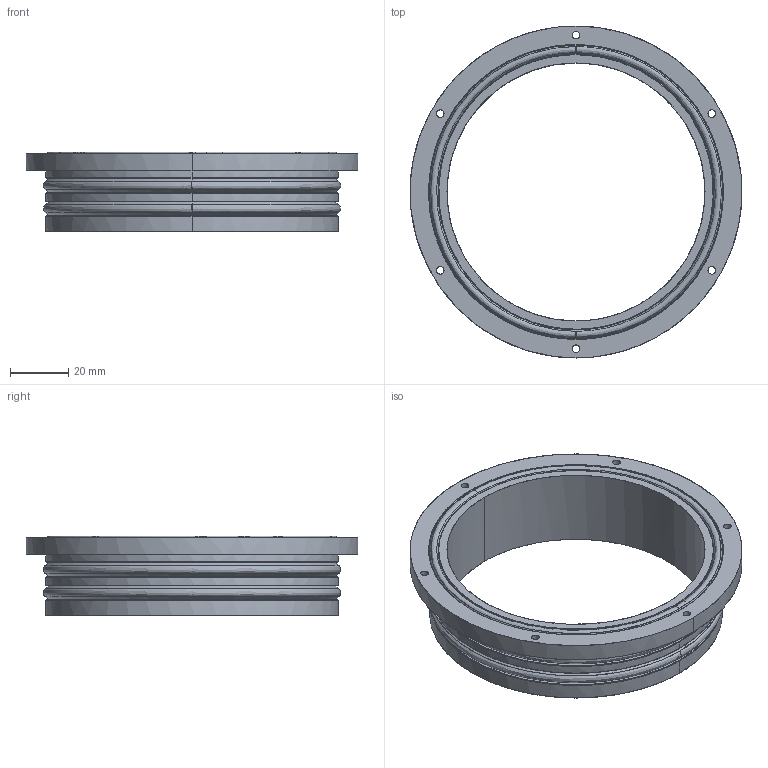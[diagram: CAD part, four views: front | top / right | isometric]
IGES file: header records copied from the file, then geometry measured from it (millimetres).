
Start section: SolidWorks IGES file using NURBS representation for surfaces
Global section: file name: C:\Users\rjehangir\Dropbox\BlueRobotics\BR-Engineering\Models\WTC-4-X2A -PUBLIC\WTC-M-FLANGE-SEAL-4-R2.IGS; native system: SolidWorks 2012; preprocessor: SolidWorks 2012; author: rjehangir; date: 150712.192644; units: millimetre
Bounding box: 114.3 x 114.3 x 27.53 mm (x, y, z)
Surface area: 28305.8 mm2 (no closed solid volume)
Topology: 0 solids, 0 shells, 78 faces, 1736 edges, 1736 vertices
Faces by surface type: bspline 78
